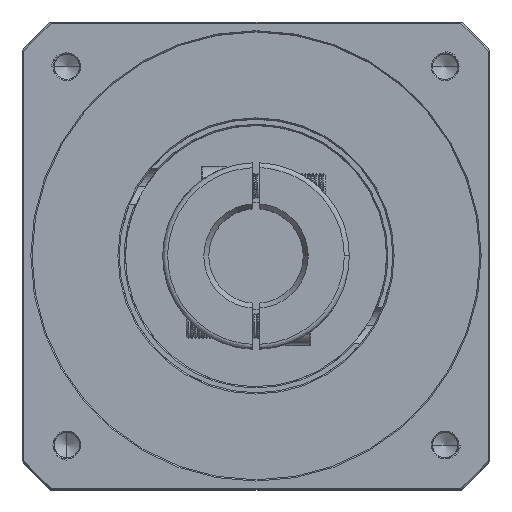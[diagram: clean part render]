
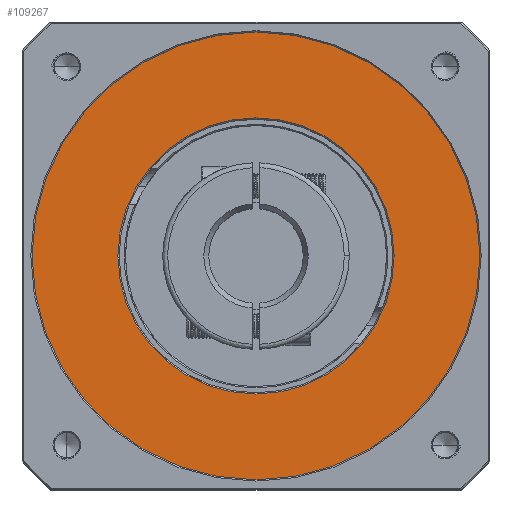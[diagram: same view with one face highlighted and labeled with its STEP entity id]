
A CAD part, top view. The second image highlights one B-rep face of the part: STEP entity #109267.
In plain terms, the highlighted planar face has unit normal (0, 0, 1).
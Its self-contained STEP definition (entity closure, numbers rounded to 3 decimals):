
#900 = DIRECTION ( 'NONE',  ( 0., 0., 1. ) ) ;
#1560 = DIRECTION ( 'NONE',  ( 1., 0., 0. ) ) ;
#2403 = CIRCLE ( 'NONE', #55540, 55.5 ) ;
#9043 = CARTESIAN_POINT ( 'NONE',  ( -41.355, 104.514, 27.254 ) ) ;
#10755 = VERTEX_POINT ( 'NONE', #29749 ) ;
#11550 = DIRECTION ( 'NONE',  ( 0., 0., -1. ) ) ;
#12244 = EDGE_CURVE ( 'NONE', #135150, #69196, #2403, .T. ) ;
#12910 = CARTESIAN_POINT ( 'NONE',  ( -96.855, 104.514, 27.254 ) ) ;
#19095 = AXIS2_PLACEMENT_3D ( 'NONE', #63334, #900, #84421 ) ;
#29749 = CARTESIAN_POINT ( 'NONE',  ( -6.855, 104.514, 27.254 ) ) ;
#32015 = EDGE_CURVE ( 'NONE', #10755, #87547, #108878, .T. ) ;
#36811 = CARTESIAN_POINT ( 'NONE',  ( -96.855, 104.514, 27.254 ) ) ;
#39420 = EDGE_CURVE ( 'NONE', #87547, #10755, #44231, .T. ) ;
#39547 = EDGE_LOOP ( 'NONE', ( #72147, #83479 ) ) ;
#39798 = PLANE ( 'NONE',  #92135 ) ;
#44231 = CIRCLE ( 'NONE', #77068, 90. ) ;
#55540 = AXIS2_PLACEMENT_3D ( 'NONE', #99262, #78707, #90537 ) ;
#57052 = CIRCLE ( 'NONE', #75754, 55.5 ) ;
#59053 = EDGE_LOOP ( 'NONE', ( #74485, #90850 ) ) ;
#63334 = CARTESIAN_POINT ( 'NONE',  ( -96.855, 104.514, 27.254 ) ) ;
#68304 = DIRECTION ( 'NONE',  ( 1., 0., 0. ) ) ;
#69196 = VERTEX_POINT ( 'NONE', #9043 ) ;
#71732 = FACE_OUTER_BOUND ( 'NONE', #39547, .T. ) ;
#72147 = ORIENTED_EDGE ( 'NONE', *, *, #32015, .T. ) ;
#74485 = ORIENTED_EDGE ( 'NONE', *, *, #99022, .T. ) ;
#75754 = AXIS2_PLACEMENT_3D ( 'NONE', #12910, #11550, #96441 ) ;
#77068 = AXIS2_PLACEMENT_3D ( 'NONE', #36811, #109959, #68304 ) ;
#78707 = DIRECTION ( 'NONE',  ( 0., 0., -1. ) ) ;
#83479 = ORIENTED_EDGE ( 'NONE', *, *, #39420, .T. ) ;
#84421 = DIRECTION ( 'NONE',  ( 1., 0., 0. ) ) ;
#87547 = VERTEX_POINT ( 'NONE', #131482 ) ;
#90537 = DIRECTION ( 'NONE',  ( 1., 0., 0. ) ) ;
#90850 = ORIENTED_EDGE ( 'NONE', *, *, #12244, .T. ) ;
#92135 = AXIS2_PLACEMENT_3D ( 'NONE', #123386, #126619, #1560 ) ;
#96441 = DIRECTION ( 'NONE',  ( 1., 0., 0. ) ) ;
#99022 = EDGE_CURVE ( 'NONE', #69196, #135150, #57052, .T. ) ;
#99262 = CARTESIAN_POINT ( 'NONE',  ( -96.855, 104.514, 27.254 ) ) ;
#108878 = CIRCLE ( 'NONE', #19095, 90. ) ;
#109267 = ADVANCED_FACE ( 'NONE', ( #112695, #71732 ), #39798, .T. ) ;
#109959 = DIRECTION ( 'NONE',  ( 0., 0., 1. ) ) ;
#112695 = FACE_BOUND ( 'NONE', #59053, .T. ) ;
#116639 = CARTESIAN_POINT ( 'NONE',  ( -152.355, 104.514, 27.254 ) ) ;
#123386 = CARTESIAN_POINT ( 'NONE',  ( -96.855, 104.514, 27.254 ) ) ;
#126619 = DIRECTION ( 'NONE',  ( 0., 0., 1. ) ) ;
#131482 = CARTESIAN_POINT ( 'NONE',  ( -186.855, 104.514, 27.254 ) ) ;
#135150 = VERTEX_POINT ( 'NONE', #116639 ) ;
